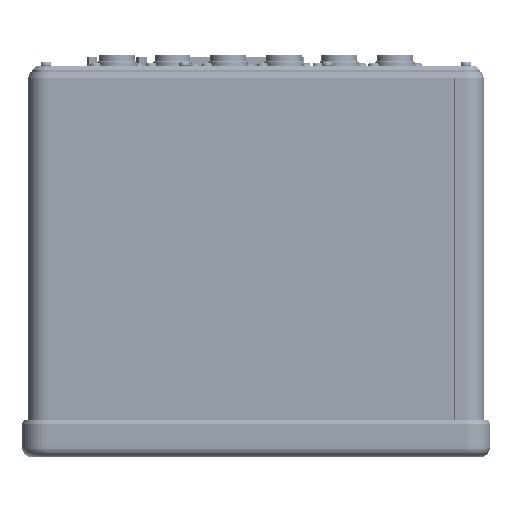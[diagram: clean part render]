
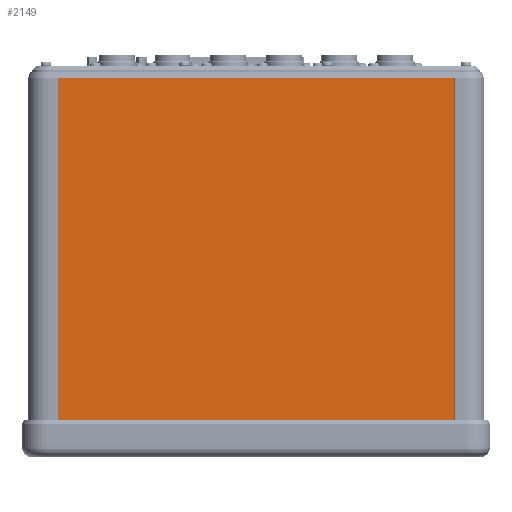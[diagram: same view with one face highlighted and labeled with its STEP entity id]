
A CAD part, top view. The second image highlights one B-rep face of the part: STEP entity #2149.
In plain terms, the highlighted planar face has unit normal (0, 0, 1) as drawn and (0, 0, -1) by its records, which use the part's own axes.
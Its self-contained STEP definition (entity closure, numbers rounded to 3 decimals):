
#2149=ADVANCED_FACE('',(#5399),#5400,.T.);
#5399=FACE_OUTER_BOUND('',#12542,.T.);
#5400=PLANE('',#12543);
#12542=EDGE_LOOP('',(#20504,#20505,#20506,#20507));
#12543=AXIS2_PLACEMENT_3D('',#20508,#20509,#20510);
#20504=ORIENTED_EDGE('',*,*,#43105,.T.);
#20505=ORIENTED_EDGE('',*,*,#43148,.T.);
#20506=ORIENTED_EDGE('',*,*,#43149,.T.);
#20507=ORIENTED_EDGE('',*,*,#43120,.T.);
#20508=CARTESIAN_POINT('',(99.75,0.0,-2.0));
#20509=DIRECTION('',(0.0,0.0,-1.0));
#20510=DIRECTION('',(0.0,-1.0,0.0));
#43105=EDGE_CURVE('',#50895,#50893,#50896,.T.);
#43120=EDGE_CURVE('',#50918,#50895,#50922,.T.);
#43148=EDGE_CURVE('',#50893,#50974,#50975,.T.);
#43149=EDGE_CURVE('',#50974,#50918,#50976,.T.);
#50893=VERTEX_POINT('',#64715);
#50895=VERTEX_POINT('',#64718);
#50896=LINE('',#64719,#64720);
#50918=VERTEX_POINT('',#64752);
#50922=LINE('',#64758,#64759);
#50974=VERTEX_POINT('',#64834);
#50975=LINE('',#64835,#64836);
#50976=LINE('',#64837,#64838);
#64715=CARTESIAN_POINT('',(-99.55,3.,-2.0));
#64718=CARTESIAN_POINT('',(99.55,3.0,-2.0));
#64719=CARTESIAN_POINT('',(99.75,3.0,-2.0));
#64720=VECTOR('',#81587,1.0);
#64752=CARTESIAN_POINT('',(99.55,177.0,-2.));
#64758=CARTESIAN_POINT('',(99.55,0.0,-2.0));
#64759=VECTOR('',#81606,1.0);
#64834=CARTESIAN_POINT('',(-99.55,177.0,-2.0));
#64835=CARTESIAN_POINT('',(-99.55,0.0,-2.0));
#64836=VECTOR('',#81642,1.0);
#64837=CARTESIAN_POINT('',(99.75,177.0,-2.0));
#64838=VECTOR('',#81643,1.0);
#81587=DIRECTION('',(-1.0,0.0,0.0));
#81606=DIRECTION('',(0.0,-1.0,0.0));
#81642=DIRECTION('',(0.0,1.0,0.0));
#81643=DIRECTION('',(1.0,0.0,0.0));
